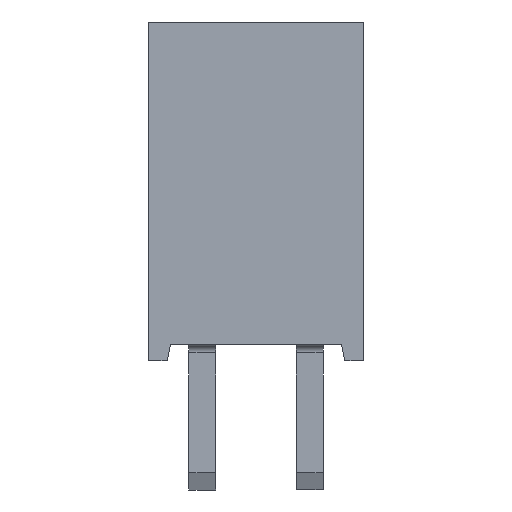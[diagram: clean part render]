
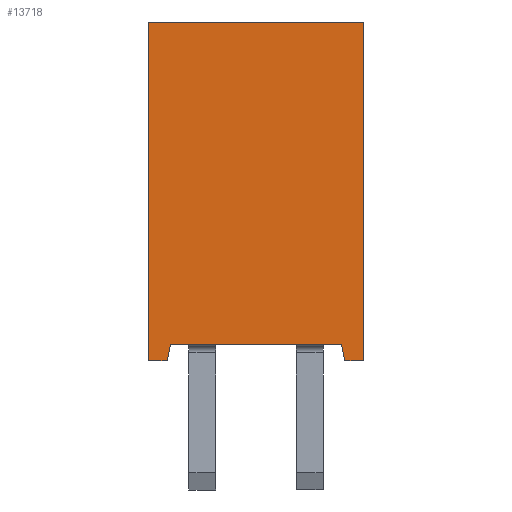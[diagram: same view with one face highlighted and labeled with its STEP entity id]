
A CAD part, left-side view. The second image highlights one B-rep face of the part: STEP entity #13718.
In plain terms, the highlighted planar face has unit normal (-1, 0, 0).
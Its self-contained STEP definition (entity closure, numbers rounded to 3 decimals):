
#2692 = CARTESIAN_POINT ( 'NONE',  ( -10.576, -0.736, 6.3 ) ) ;
#2712 = CARTESIAN_POINT ( 'NONE',  ( -10.576, 3.264, 0. ) ) ;
#2735 = LINE ( 'NONE', #2751, #3737 ) ;
#2751 = CARTESIAN_POINT ( 'NONE',  ( -10.576, -0.736, 0.3 ) ) ;
#2756 = DIRECTION ( 'NONE',  ( 0., -1., 0. ) ) ;
#3549 = CARTESIAN_POINT ( 'NONE',  ( -10.576, -0.736, 0. ) ) ;
#3566 = FACE_OUTER_BOUND ( 'NONE', #15492, .T. ) ;
#3567 = PLANE ( 'NONE',  #11197 ) ;
#3571 = DIRECTION ( 'NONE',  ( 1., 0., 0. ) ) ;
#3573 = DIRECTION ( 'NONE',  ( 0., 1., 0. ) ) ;
#3737 = VECTOR ( 'NONE', #2756, 1000. ) ;
#5661 = LINE ( 'NONE', #5663, #6092 ) ;
#5662 = LINE ( 'NONE', #5671, #6094 ) ;
#5663 = CARTESIAN_POINT ( 'NONE',  ( -10.576, 1.264, 0. ) ) ;
#5664 = DIRECTION ( 'NONE',  ( 0., 1., 0. ) ) ;
#5671 = CARTESIAN_POINT ( 'NONE',  ( -10.576, -0.326, 0.3 ) ) ;
#5672 = DIRECTION ( 'NONE',  ( 0., 0.196, 0.981 ) ) ;
#5676 = LINE ( 'NONE', #5677, #6097 ) ;
#5677 = CARTESIAN_POINT ( 'NONE',  ( -10.576, 2.914, 0. ) ) ;
#5678 = DIRECTION ( 'NONE',  ( 0., 0.196, -0.981 ) ) ;
#5688 = LINE ( 'NONE', #5689, #6101 ) ;
#5689 = CARTESIAN_POINT ( 'NONE',  ( -10.576, 1.264, 0. ) ) ;
#5690 = DIRECTION ( 'NONE',  ( 0., 1., 0. ) ) ;
#6092 = VECTOR ( 'NONE', #5664, 1000. ) ;
#6094 = VECTOR ( 'NONE', #5672, 1000. ) ;
#6097 = VECTOR ( 'NONE', #5678, 1000. ) ;
#6101 = VECTOR ( 'NONE', #5690, 1000. ) ;
#6331 = VECTOR ( 'NONE', #7158, 1000. ) ;
#7156 = LINE ( 'NONE', #7157, #6331 ) ;
#7157 = CARTESIAN_POINT ( 'NONE',  ( -10.576, 3.264, 3.15 ) ) ;
#7158 = DIRECTION ( 'NONE',  ( 0., 0., -1. ) ) ;
#7418 = VECTOR ( 'NONE', #11960, 1000. ) ;
#7455 = LINE ( 'NONE', #7457, #7586 ) ;
#7457 = CARTESIAN_POINT ( 'NONE',  ( -10.576, -0.736, 3.15 ) ) ;
#7459 = DIRECTION ( 'NONE',  ( 0., 0., 1. ) ) ;
#7586 = VECTOR ( 'NONE', #7459, 1000. ) ;
#8311 = CARTESIAN_POINT ( 'NONE',  ( -10.576, 2.914, 0. ) ) ;
#9421 = EDGE_CURVE ( 'NONE', #13208, #14465, #11958, .T. ) ;
#10882 = VERTEX_POINT ( 'NONE', #11942 ) ;
#11197 = AXIS2_PLACEMENT_3D ( 'NONE', #3549, #3571, #3573 ) ;
#11942 = CARTESIAN_POINT ( 'NONE',  ( -10.576, -0.386, 0. ) ) ;
#11958 = LINE ( 'NONE', #11959, #7418 ) ;
#11959 = CARTESIAN_POINT ( 'NONE',  ( -10.576, 1.264, 6.3 ) ) ;
#11960 = DIRECTION ( 'NONE',  ( 0., -1., 0. ) ) ;
#12111 = CARTESIAN_POINT ( 'NONE',  ( -10.576, 2.854, 0.3 ) ) ;
#12140 = CARTESIAN_POINT ( 'NONE',  ( -10.576, -0.326, 0.3 ) ) ;
#12151 = CARTESIAN_POINT ( 'NONE',  ( -10.576, 3.264, 6.3 ) ) ;
#12183 = CARTESIAN_POINT ( 'NONE',  ( -10.576, -0.736, 0. ) ) ;
#12711 = VERTEX_POINT ( 'NONE', #12111 ) ;
#12740 = VERTEX_POINT ( 'NONE', #12140 ) ;
#13208 = VERTEX_POINT ( 'NONE', #12151 ) ;
#13237 = VERTEX_POINT ( 'NONE', #12183 ) ;
#13718 = ADVANCED_FACE ( 'NONE', ( #3566 ), #3567, .F. ) ;
#14465 = VERTEX_POINT ( 'NONE', #2692 ) ;
#15492 = EDGE_LOOP ( 'NONE', ( #17231, #17236, #17394, #17384, #17238, #17235, #17245, #17269 ) ) ;
#16184 = VERTEX_POINT ( 'NONE', #2712 ) ;
#16308 = EDGE_CURVE ( 'NONE', #12711, #12740, #2735, .T. ) ;
#16706 = EDGE_CURVE ( 'NONE', #17993, #16184, #5661, .T. ) ;
#16709 = EDGE_CURVE ( 'NONE', #10882, #12740, #5662, .T. ) ;
#16711 = EDGE_CURVE ( 'NONE', #12711, #17993, #5676, .T. ) ;
#16715 = EDGE_CURVE ( 'NONE', #13237, #10882, #5688, .T. ) ;
#17231 = ORIENTED_EDGE ( 'NONE', *, *, #17737, .T. ) ;
#17235 = ORIENTED_EDGE ( 'NONE', *, *, #16308, .T. ) ;
#17236 = ORIENTED_EDGE ( 'NONE', *, *, #9421, .F. ) ;
#17238 = ORIENTED_EDGE ( 'NONE', *, *, #16711, .F. ) ;
#17245 = ORIENTED_EDGE ( 'NONE', *, *, #16709, .F. ) ;
#17269 = ORIENTED_EDGE ( 'NONE', *, *, #16715, .F. ) ;
#17384 = ORIENTED_EDGE ( 'NONE', *, *, #16706, .F. ) ;
#17394 = ORIENTED_EDGE ( 'NONE', *, *, #17659, .T. ) ;
#17659 = EDGE_CURVE ( 'NONE', #13208, #16184, #7156, .T. ) ;
#17737 = EDGE_CURVE ( 'NONE', #13237, #14465, #7455, .T. ) ;
#17993 = VERTEX_POINT ( 'NONE', #8311 ) ;
